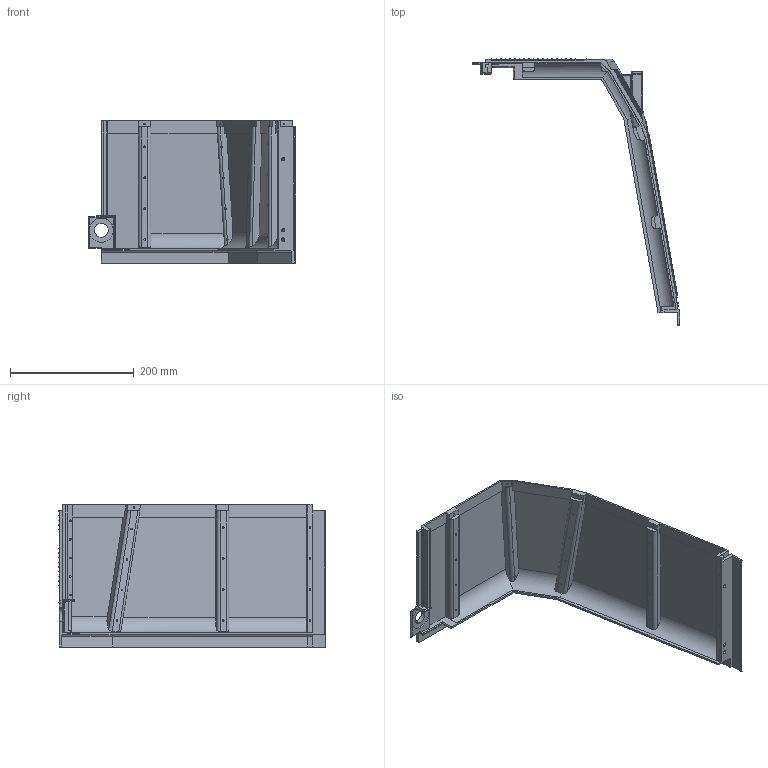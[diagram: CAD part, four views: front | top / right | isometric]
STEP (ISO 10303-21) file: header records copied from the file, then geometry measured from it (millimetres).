
FILE_DESCRIPTION(('STEP AP242 Edition 2','STEP AP242 Edition 2''CAx-IF Rec.Pracs.---Representation and Presentation of Product Manufacturing Information (PMI)---4.0---2014-10-13','STEP AP242 Edition 2''CAx-IF Rec.Pracs.---Representation and Presentation of Product Manufacturing Information (PMI)---4.0---2014-10-13''CAx-IF Rec.Pracs.---3D Tessellated Geometry---0.4---2014-09-14','STEP AP242 Edition 2''CAx-IF Rec.Pracs.---Representation and Presentation of Product Manufacturing Information (PMI)---4.0---2014-10-13''CAx-IF Rec.Pracs.---3D Tessellated Geometry---0.4---2014-09-14''2;1','STEP AP242 Edition 2''CAx-IF Rec.Pracs.---Representation and Presentation of Product Manufacturing Information (PMI)---4.0---2014-10-13''CAx-IF Rec.Pracs.---3D Tessellated Geometry---0.4---2014-09-14''2;1''CAx-IF Rec.Pracs.---User Defined Attributes---1.5---2016-08-15'),'2;1');
FILE_NAME('/vol/tmp/translate-5928582753522486027/Part Studio Body Front - Part Front Right LowerBottom - Blue Car Color.step','2026-05-02T13:02:41',(''),(''),'ST-DEVELOPER v20','ONSHAPE BY PTC INC, 1.214',' ');
FILE_SCHEMA(('AP242_MANAGED_MODEL_BASED_3D_ENGINEERING_MIM_LF { 1 0 10303 442 3 1 4 }'));
Length unit declared in the file: metre
Products named in the file (1): Part Front Right LowerBottom - Blue Car Color
Bounding box: 335 x 430.45 x 229.7 mm (x, y, z)
Volume: 1024269.6 mm3; surface area: 394485.2 mm2
Topology: 1 solids, 1 shells, 969 faces, 2400 edges, 1594 vertices
Faces by surface type: plane 591, cylinder 190, cone 169, bspline 15, sphere 4
Full cylindrical faces by diameter (mm): 2.75 x33, 4 x3, 5.6 x3, 22.5 x1, 39 x1
Entity records: 29732 total; most frequent: CARTESIAN_POINT 6503, DIRECTION 4761, ORIENTED_EDGE 4404, EDGE_CURVE 2202, AXIS2_PLACEMENT_3D 1688, VERTEX_POINT 1549, LINE 1385, VECTOR 1385
